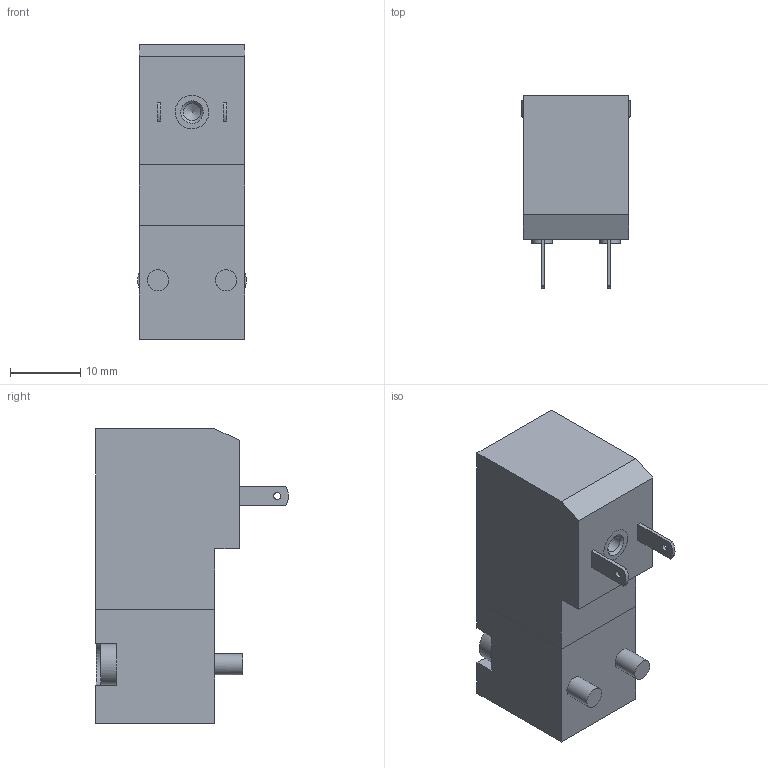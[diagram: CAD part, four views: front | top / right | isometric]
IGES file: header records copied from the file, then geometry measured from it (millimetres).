
Global section: file name: N3##_R0#-2; native system: Autodesk Inventor 2014; preprocessor: unknown; author: A. Manieri; organization: Pneumax S.p.A.; date: 20160908.134856; units: millimetre
Bounding box: 15.5 x 27.5 x 42 mm (x, y, z)
Volume: 11537.6 mm3; surface area: 3764.5 mm2
Topology: 1 solids, 1 shells, 81 faces, 210 edges, 138 vertices
Faces by surface type: bspline 81
